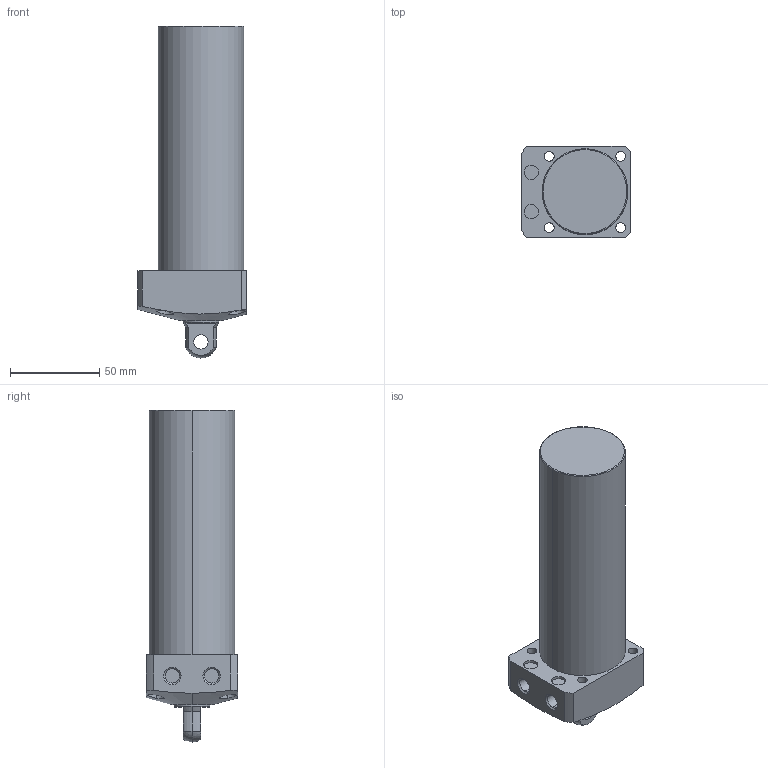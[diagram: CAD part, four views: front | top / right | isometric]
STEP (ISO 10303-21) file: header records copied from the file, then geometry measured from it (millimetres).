
FILE_DESCRIPTION (( 'STEP AP203' ), '1' );
FILE_NAME ('CLL-048CP-110.STEP', '2019-12-21T06:56:35', ( '' ), ( '' ), 'SwSTEP 2.0', 'SolidWorks 2015', '' );
FILE_SCHEMA (( 'CONFIG_CONTROL_DESIGN' ));
Length unit declared in the file: millimetre
Products named in the file (1): CLL-048CP-110
Bounding box: 61 x 51 x 186 mm (x, y, z)
Volume: 323247.3 mm3; surface area: 35478.5 mm2
Topology: 1 solids, 1 shells, 68 faces, 159 edges, 103 vertices
Faces by surface type: cylinder 35, plane 21, cone 8, sphere 2, torus 2
Entity records: 2390 total; most frequent: CARTESIAN_POINT 693, DIRECTION 357, ORIENTED_EDGE 318, EDGE_CURVE 159, AXIS2_PLACEMENT_3D 149, VERTEX_POINT 103, EDGE_LOOP 88, CIRCLE 80
